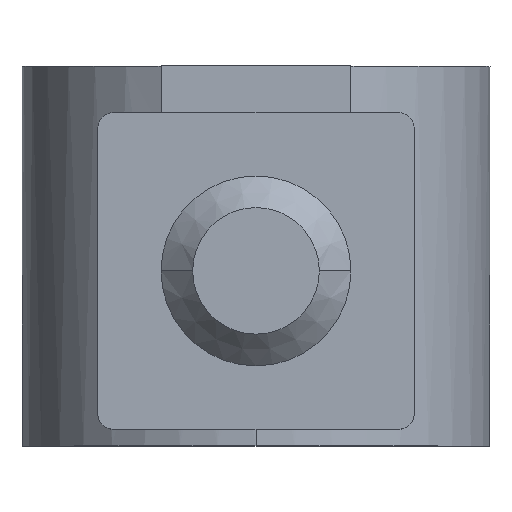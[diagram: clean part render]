
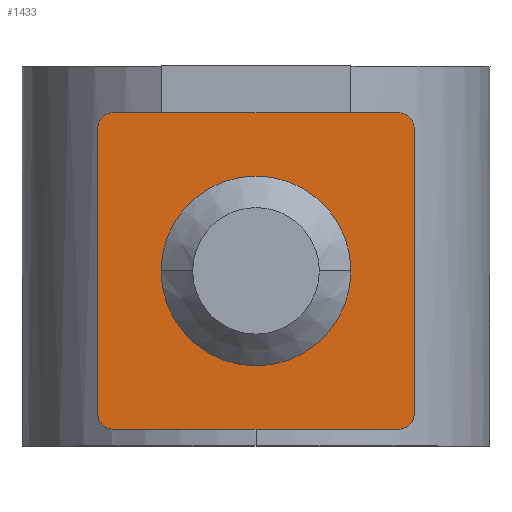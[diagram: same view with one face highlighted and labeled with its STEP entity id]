
A CAD part, top view. The second image highlights one B-rep face of the part: STEP entity #1433.
In plain terms, the highlighted planar face has unit normal (0, 0, 1).
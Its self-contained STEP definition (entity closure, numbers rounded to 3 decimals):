
#2 = FACE_BOUND ( 'NONE', #290, .T. ) ;
#3 = EDGE_CURVE ( 'NONE', #365, #1223, #1715, .T. ) ;
#26 = EDGE_CURVE ( 'NONE', #1223, #365, #533, .T. ) ;
#38 = AXIS2_PLACEMENT_3D ( 'NONE', #1601, #690, #1762 ) ;
#61 = VERTEX_POINT ( 'NONE', #803 ) ;
#124 = CARTESIAN_POINT ( 'NONE',  ( -5., 5., 2.5 ) ) ;
#160 = CARTESIAN_POINT ( 'NONE',  ( -4.5, -5., 2.5 ) ) ;
#228 = ORIENTED_EDGE ( 'NONE', *, *, #1262, .T. ) ;
#244 = DIRECTION ( 'NONE',  ( 0., 0., 1. ) ) ;
#245 = CIRCLE ( 'NONE', #711, 0.5 ) ;
#277 = VERTEX_POINT ( 'NONE', #700 ) ;
#278 = DIRECTION ( 'NONE',  ( 0., 0., 1. ) ) ;
#289 = ORIENTED_EDGE ( 'NONE', *, *, #1687, .T. ) ;
#290 = EDGE_LOOP ( 'NONE', ( #1185, #1145 ) ) ;
#316 = DIRECTION ( 'NONE',  ( 0., 0., 1. ) ) ;
#365 = VERTEX_POINT ( 'NONE', #409 ) ;
#369 = PLANE ( 'NONE',  #38 ) ;
#409 = CARTESIAN_POINT ( 'NONE',  ( 2.5, 0., 2.5 ) ) ;
#425 = VECTOR ( 'NONE', #1368, 1000. ) ;
#434 = VERTEX_POINT ( 'NONE', #1487 ) ;
#435 = DIRECTION ( 'NONE',  ( 1., 0., 0. ) ) ;
#493 = CARTESIAN_POINT ( 'NONE',  ( 4.5, 4.5, 2.5 ) ) ;
#517 = EDGE_LOOP ( 'NONE', ( #1620, #1051, #289, #1685, #228, #1818, #838, #651 ) ) ;
#533 = CIRCLE ( 'NONE', #1970, 2.5 ) ;
#550 = CARTESIAN_POINT ( 'NONE',  ( 5., 5., 2.5 ) ) ;
#608 = DIRECTION ( 'NONE',  ( 0., 0., 1. ) ) ;
#636 = EDGE_CURVE ( 'NONE', #1295, #1388, #1905, .T. ) ;
#639 = CARTESIAN_POINT ( 'NONE',  ( 5., -4.5, 2.5 ) ) ;
#651 = ORIENTED_EDGE ( 'NONE', *, *, #696, .T. ) ;
#655 = DIRECTION ( 'NONE',  ( 1., 0., 0. ) ) ;
#690 = DIRECTION ( 'NONE',  ( 0., 0., 1. ) ) ;
#696 = EDGE_CURVE ( 'NONE', #61, #434, #1808, .T. ) ;
#700 = CARTESIAN_POINT ( 'NONE',  ( -5., -4.5, 2.5 ) ) ;
#711 = AXIS2_PLACEMENT_3D ( 'NONE', #1199, #278, #1359 ) ;
#733 = LINE ( 'NONE', #1776, #1405 ) ;
#798 = VERTEX_POINT ( 'NONE', #1431 ) ;
#803 = CARTESIAN_POINT ( 'NONE',  ( 5., 4.5, 2.5 ) ) ;
#833 = LINE ( 'NONE', #124, #425 ) ;
#838 = ORIENTED_EDGE ( 'NONE', *, *, #1121, .T. ) ;
#853 = DIRECTION ( 'NONE',  ( -1., 0., 0. ) ) ;
#893 = CARTESIAN_POINT ( 'NONE',  ( -2.5, 0., 2.5 ) ) ;
#916 = CARTESIAN_POINT ( 'NONE',  ( -4.5, 5., 2.5 ) ) ;
#1022 = VECTOR ( 'NONE', #435, 1000. ) ;
#1030 = AXIS2_PLACEMENT_3D ( 'NONE', #1236, #316, #1399 ) ;
#1042 = CARTESIAN_POINT ( 'NONE',  ( -5., -5., 2.5 ) ) ;
#1051 = ORIENTED_EDGE ( 'NONE', *, *, #636, .T. ) ;
#1103 = AXIS2_PLACEMENT_3D ( 'NONE', #1156, #244, #1319 ) ;
#1121 = EDGE_CURVE ( 'NONE', #1420, #61, #1764, .T. ) ;
#1145 = ORIENTED_EDGE ( 'NONE', *, *, #26, .F. ) ;
#1156 = CARTESIAN_POINT ( 'NONE',  ( 4.5, -4.5, 2.5 ) ) ;
#1185 = ORIENTED_EDGE ( 'NONE', *, *, #3, .F. ) ;
#1197 = DIRECTION ( 'NONE',  ( 0., 0., 1. ) ) ;
#1199 = CARTESIAN_POINT ( 'NONE',  ( -4.5, -4.5, 2.5 ) ) ;
#1223 = VERTEX_POINT ( 'NONE', #893 ) ;
#1236 = CARTESIAN_POINT ( 'NONE',  ( -4.5, 4.5, 2.5 ) ) ;
#1240 = EDGE_CURVE ( 'NONE', #277, #1400, #245, .T. ) ;
#1255 = CIRCLE ( 'NONE', #1103, 0.5 ) ;
#1262 = EDGE_CURVE ( 'NONE', #1400, #798, #1852, .T. ) ;
#1295 = VERTEX_POINT ( 'NONE', #916 ) ;
#1319 = DIRECTION ( 'NONE',  ( 1., 0., 0. ) ) ;
#1359 = DIRECTION ( 'NONE',  ( 1., 0., 0. ) ) ;
#1368 = DIRECTION ( 'NONE',  ( 0., -1., 0. ) ) ;
#1388 = VERTEX_POINT ( 'NONE', #1866 ) ;
#1399 = DIRECTION ( 'NONE',  ( 1., 0., 0. ) ) ;
#1400 = VERTEX_POINT ( 'NONE', #160 ) ;
#1405 = VECTOR ( 'NONE', #853, 1000. ) ;
#1420 = VERTEX_POINT ( 'NONE', #639 ) ;
#1431 = CARTESIAN_POINT ( 'NONE',  ( 4.5, -5., 2.5 ) ) ;
#1433 = ADVANCED_FACE ( 'NONE', ( #2, #1544 ), #369, .T. ) ;
#1487 = CARTESIAN_POINT ( 'NONE',  ( 4.5, 5., 2.5 ) ) ;
#1490 = EDGE_CURVE ( 'NONE', #434, #1295, #733, .T. ) ;
#1516 = CARTESIAN_POINT ( 'NONE',  ( 0., 0., 2.5 ) ) ;
#1544 = FACE_OUTER_BOUND ( 'NONE', #517, .T. ) ;
#1563 = DIRECTION ( 'NONE',  ( 0., 0., 1. ) ) ;
#1601 = CARTESIAN_POINT ( 'NONE',  ( -5., 5., 2.5 ) ) ;
#1620 = ORIENTED_EDGE ( 'NONE', *, *, #1490, .T. ) ;
#1660 = CARTESIAN_POINT ( 'NONE',  ( 0., 0., 2.5 ) ) ;
#1674 = DIRECTION ( 'NONE',  ( 1., 0., 0. ) ) ;
#1685 = ORIENTED_EDGE ( 'NONE', *, *, #1240, .T. ) ;
#1687 = EDGE_CURVE ( 'NONE', #1388, #277, #833, .T. ) ;
#1715 = CIRCLE ( 'NONE', #1750, 2.5 ) ;
#1717 = VECTOR ( 'NONE', #1782, 1000. ) ;
#1750 = AXIS2_PLACEMENT_3D ( 'NONE', #1660, #1197, #1979 ) ;
#1762 = DIRECTION ( 'NONE',  ( 1., 0., 0. ) ) ;
#1764 = LINE ( 'NONE', #550, #1717 ) ;
#1776 = CARTESIAN_POINT ( 'NONE',  ( -5., 5., 2.5 ) ) ;
#1782 = DIRECTION ( 'NONE',  ( 0., 1., 0. ) ) ;
#1808 = CIRCLE ( 'NONE', #1969, 0.5 ) ;
#1818 = ORIENTED_EDGE ( 'NONE', *, *, #1983, .T. ) ;
#1852 = LINE ( 'NONE', #1042, #1022 ) ;
#1866 = CARTESIAN_POINT ( 'NONE',  ( -5., 4.5, 2.5 ) ) ;
#1905 = CIRCLE ( 'NONE', #1030, 0.5 ) ;
#1969 = AXIS2_PLACEMENT_3D ( 'NONE', #493, #1563, #655 ) ;
#1970 = AXIS2_PLACEMENT_3D ( 'NONE', #1516, #608, #1674 ) ;
#1979 = DIRECTION ( 'NONE',  ( 1., 0., 0. ) ) ;
#1983 = EDGE_CURVE ( 'NONE', #798, #1420, #1255, .T. ) ;
